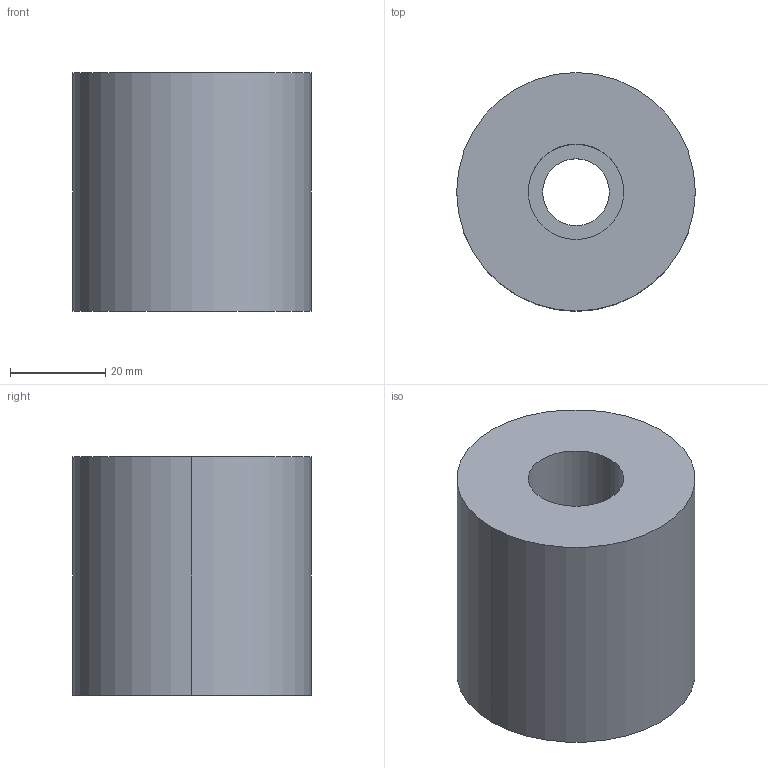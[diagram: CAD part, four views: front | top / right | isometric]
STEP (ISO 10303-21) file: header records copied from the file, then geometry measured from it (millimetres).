
FILE_DESCRIPTION(/* description */ (''),/* implementation_level */ '2;1');
FILE_NAME(/* name */ '3d_azn50-50_03249_r00.stp',/* time_stamp */ '2011-01-10T14:17:33+09:00',/* author */ ('MISUMI'),/* organization */ (''),/* preprocessor_version */ 'ST-DEVELOPER v11',/* originating_system */ 'UGS - NX 5.0',/* authorisation */ '');
FILE_SCHEMA (('CONFIG_CONTROL_DESIGN'));
Length unit declared in the file: millimetre
Products named in the file (1): 3d_azn50-50_03249_r00
Bounding box: 50 x 50 x 50 mm (x, y, z)
Volume: 84069 mm3; surface area: 14426.2 mm2
Topology: 1 solids, 1 shells, 9 faces, 18 edges, 12 vertices
Faces by surface type: cylinder 6, plane 3
Entity records: 334 total; most frequent: DIRECTION 50, CARTESIAN_POINT 40, ORIENTED_EDGE 36, AXIS2_PLACEMENT_3D 22, EDGE_CURVE 18, EDGE_LOOP 12, VERTEX_POINT 12, CIRCLE 12
